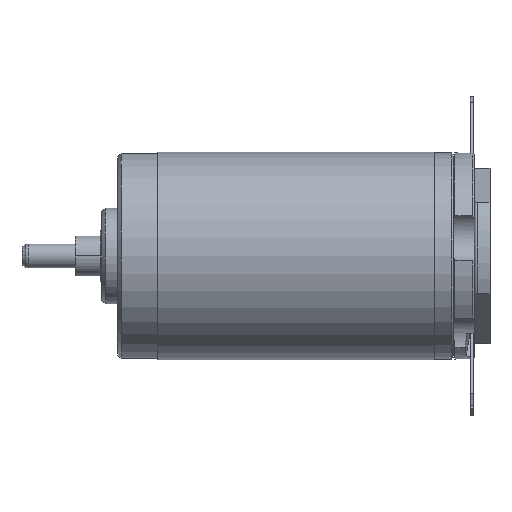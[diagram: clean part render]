
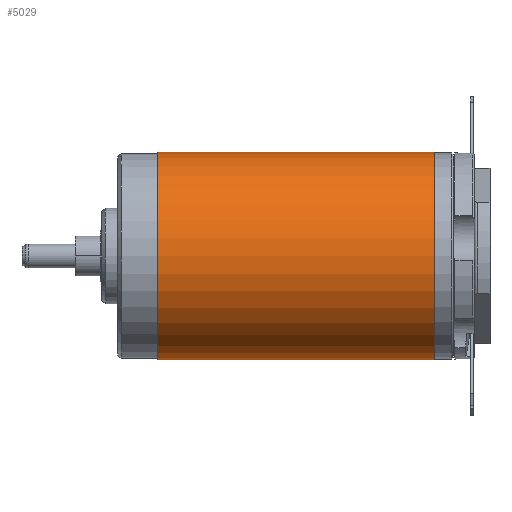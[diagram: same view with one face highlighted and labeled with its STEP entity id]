
A CAD part, top view. The second image highlights one B-rep face of the part: STEP entity #5029.
In plain terms, the highlighted cylindrical face has radius 6.5 mm (diameter 13 mm), a partial arc.
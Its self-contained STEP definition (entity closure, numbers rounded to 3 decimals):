
#79=CARTESIAN_POINT('',(2.5,0.,0.));
#80=DIRECTION('',(1.,0.,0.));
#81=DIRECTION('',(0.,1.,0.));
#82=AXIS2_PLACEMENT_3D('',#79,#80,#81);
#87=DIRECTION('',(-1.,0.,0.));
#88=VECTOR('',#87,17.3);
#89=CARTESIAN_POINT('',(19.8,6.5,0.));
#90=LINE('',#89,#88);
#94=DIRECTION('',(-1.,0.,0.));
#95=VECTOR('',#94,17.3);
#96=CARTESIAN_POINT('',(19.8,-6.5,0.));
#97=LINE('',#96,#95);
#109=CARTESIAN_POINT('',(19.8,0.,0.));
#110=DIRECTION('',(1.,0.,0.));
#111=DIRECTION('',(0.,1.,0.));
#112=AXIS2_PLACEMENT_3D('',#109,#110,#111);
#4319=CARTESIAN_POINT('',(19.8,6.5,0.));
#4320=CARTESIAN_POINT('',(2.5,6.5,0.));
#4321=VERTEX_POINT('',#4319);
#4322=VERTEX_POINT('',#4320);
#4323=CARTESIAN_POINT('',(19.8,-6.5,0.));
#4324=CARTESIAN_POINT('',(2.5,-6.5,0.));
#4325=VERTEX_POINT('',#4323);
#4326=VERTEX_POINT('',#4324);
#5017=CARTESIAN_POINT('',(-1.05,0.,0.));
#5018=DIRECTION('',(1.,0.,0.));
#5019=DIRECTION('',(0.,-1.,0.));
#5020=AXIS2_PLACEMENT_3D('',#5017,#5018,#5019);
#5021=CYLINDRICAL_SURFACE('',#5020,6.5);
#5022=ORIENTED_EDGE('',*,*,#5007,.F.);
#5024=ORIENTED_EDGE('',*,*,#5023,.T.);
#5025=ORIENTED_EDGE('',*,*,#5010,.T.);
#5026=ORIENTED_EDGE('',*,*,#4991,.F.);
#5027=EDGE_LOOP('',(#5022,#5024,#5025,#5026));
#5028=FACE_OUTER_BOUND('',#5027,.F.);
#5029=ADVANCED_FACE('',(#5028),#5021,.T.);
#83=CIRCLE('',#82,6.5);
#113=CIRCLE('',#112,6.5);
#4991=EDGE_CURVE('',#4322,#4326,#83,.T.);
#5007=EDGE_CURVE('',#4321,#4322,#90,.T.);
#5010=EDGE_CURVE('',#4325,#4326,#97,.T.);
#5023=EDGE_CURVE('',#4321,#4325,#113,.T.);
